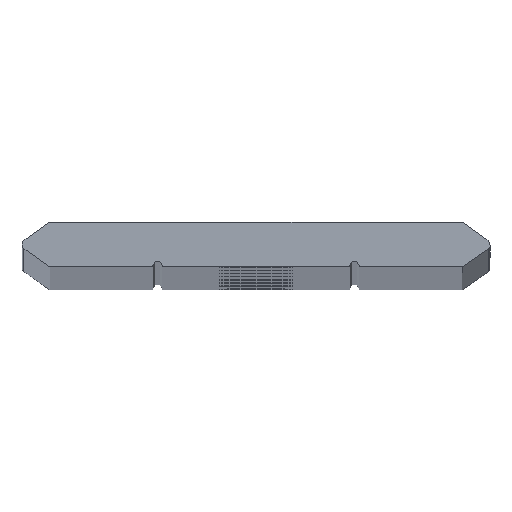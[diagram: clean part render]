
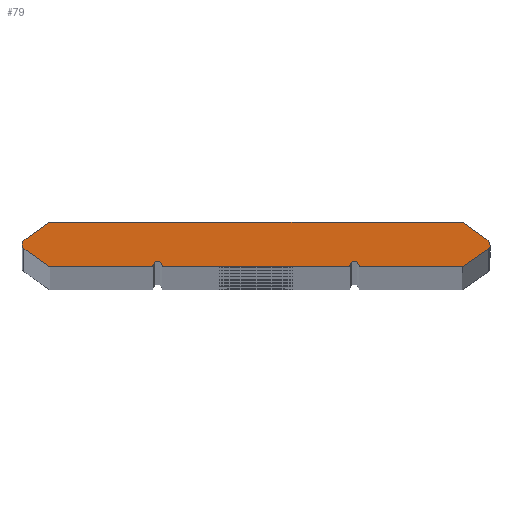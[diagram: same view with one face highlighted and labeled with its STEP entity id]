
A CAD part, top view. The second image highlights one B-rep face of the part: STEP entity #79.
In plain terms, the highlighted planar face has unit normal (0, 0, 1).
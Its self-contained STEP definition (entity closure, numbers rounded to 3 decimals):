
#79=ADVANCED_FACE('',(#166),#167,.T.);
#166=FACE_OUTER_BOUND('',#378,.T.);
#167=PLANE('',#379);
#378=EDGE_LOOP('',(#622,#623,#624,#625,#626,#627,#628,#629,#630,#631,#632,#633,#634,#635,#636,#637));
#379=AXIS2_PLACEMENT_3D('',#638,#639,#640);
#622=ORIENTED_EDGE('',*,*,#1029,.T.);
#623=ORIENTED_EDGE('',*,*,#1009,.T.);
#624=ORIENTED_EDGE('',*,*,#1030,.T.);
#625=ORIENTED_EDGE('',*,*,#1031,.T.);
#626=ORIENTED_EDGE('',*,*,#1032,.T.);
#627=ORIENTED_EDGE('',*,*,#1033,.T.);
#628=ORIENTED_EDGE('',*,*,#1034,.T.);
#629=ORIENTED_EDGE('',*,*,#1035,.T.);
#630=ORIENTED_EDGE('',*,*,#1036,.T.);
#631=ORIENTED_EDGE('',*,*,#1037,.T.);
#632=ORIENTED_EDGE('',*,*,#1038,.T.);
#633=ORIENTED_EDGE('',*,*,#1039,.T.);
#634=ORIENTED_EDGE('',*,*,#1040,.T.);
#635=ORIENTED_EDGE('',*,*,#1007,.T.);
#636=ORIENTED_EDGE('',*,*,#1041,.T.);
#637=ORIENTED_EDGE('',*,*,#1015,.T.);
#638=CARTESIAN_POINT('',(-24.918,0.,0.));
#639=DIRECTION('',(0.,0.0,1.0));
#640=DIRECTION('',(0.,1.0,0.));
#1007=EDGE_CURVE('',#1133,#1137,#1139,.T.);
#1009=EDGE_CURVE('',#1143,#1140,#1144,.T.);
#1015=EDGE_CURVE('',#1149,#1153,#1155,.T.);
#1029=EDGE_CURVE('',#1153,#1143,#1179,.T.);
#1030=EDGE_CURVE('',#1140,#1180,#1181,.T.);
#1031=EDGE_CURVE('',#1180,#1182,#1183,.T.);
#1032=EDGE_CURVE('',#1182,#1184,#1185,.T.);
#1033=EDGE_CURVE('',#1184,#1186,#1187,.T.);
#1034=EDGE_CURVE('',#1186,#1188,#1189,.T.);
#1035=EDGE_CURVE('',#1188,#1190,#1191,.T.);
#1036=EDGE_CURVE('',#1190,#1192,#1193,.T.);
#1037=EDGE_CURVE('',#1192,#1194,#1195,.T.);
#1038=EDGE_CURVE('',#1194,#1196,#1197,.T.);
#1039=EDGE_CURVE('',#1196,#1198,#1199,.T.);
#1040=EDGE_CURVE('',#1198,#1133,#1200,.T.);
#1041=EDGE_CURVE('',#1137,#1149,#1201,.T.);
#1133=VERTEX_POINT('',#1341);
#1137=VERTEX_POINT('',#1347);
#1139=LINE('',#1350,#1351);
#1140=VERTEX_POINT('',#1352);
#1143=VERTEX_POINT('',#1356);
#1144=LINE('',#1357,#1358);
#1149=VERTEX_POINT('',#1365);
#1153=VERTEX_POINT('',#1370);
#1155=CIRCLE('',#1373,0.551);
#1179=LINE('',#1407,#1408);
#1180=VERTEX_POINT('',#1409);
#1181=LINE('',#1410,#1411);
#1182=VERTEX_POINT('',#1412);
#1183=CIRCLE('',#1413,0.5);
#1184=VERTEX_POINT('',#1414);
#1185=LINE('',#1415,#1416);
#1186=VERTEX_POINT('',#1417);
#1187=LINE('',#1418,#1419);
#1188=VERTEX_POINT('',#1420);
#1189=LINE('',#1421,#1422);
#1190=VERTEX_POINT('',#1423);
#1191=CIRCLE('',#1424,0.5);
#1192=VERTEX_POINT('',#1425);
#1193=LINE('',#1426,#1427);
#1194=VERTEX_POINT('',#1428);
#1195=LINE('',#1429,#1430);
#1196=VERTEX_POINT('',#1431);
#1197=LINE('',#1432,#1433);
#1198=VERTEX_POINT('',#1434);
#1199=CIRCLE('',#1435,0.552);
#1200=LINE('',#1436,#1437);
#1201=LINE('',#1438,#1439);
#1341=CARTESIAN_POINT('',(21.997,2.39,0.));
#1347=CARTESIAN_POINT('',(-21.997,2.39,0.));
#1350=CARTESIAN_POINT('',(-24.918,2.39,0.));
#1351=VECTOR('',#1607,1.0);
#1352=CARTESIAN_POINT('',(-11.,-2.39,0.));
#1356=CARTESIAN_POINT('',(-21.997,-2.39,0.));
#1357=CARTESIAN_POINT('',(-24.918,-2.39,0.));
#1358=VECTOR('',#1609,1.0);
#1365=CARTESIAN_POINT('',(-24.765,0.452,0.));
#1370=CARTESIAN_POINT('',(-24.765,-0.452,0.));
#1373=AXIS2_PLACEMENT_3D('',#1617,#1618,#1619);
#1407=CARTESIAN_POINT('',(-25.08,-0.231,0.));
#1408=VECTOR('',#1639,1.0);
#1409=CARTESIAN_POINT('',(-11.,-2.265,0.));
#1410=CARTESIAN_POINT('',(-11.,-2.465,0.));
#1411=VECTOR('',#1640,1.0);
#1412=CARTESIAN_POINT('',(-10.,-2.265,0.));
#1413=AXIS2_PLACEMENT_3D('',#1641,#1642,#1643);
#1414=CARTESIAN_POINT('',(-10.,-2.39,0.));
#1415=CARTESIAN_POINT('',(-10.,-2.265,0.));
#1416=VECTOR('',#1644,1.0);
#1417=CARTESIAN_POINT('',(10.0,-2.39,0.));
#1418=CARTESIAN_POINT('',(-24.918,-2.39,0.));
#1419=VECTOR('',#1645,1.0);
#1420=CARTESIAN_POINT('',(10.0,-2.265,0.));
#1421=CARTESIAN_POINT('',(10.0,-2.465,0.));
#1422=VECTOR('',#1646,1.0);
#1423=CARTESIAN_POINT('',(11.,-2.265,0.));
#1424=AXIS2_PLACEMENT_3D('',#1647,#1648,#1649);
#1425=CARTESIAN_POINT('',(11.0,-2.39,0.));
#1426=CARTESIAN_POINT('',(11.0,-2.265,0.));
#1427=VECTOR('',#1650,1.0);
#1428=CARTESIAN_POINT('',(21.997,-2.39,0.));
#1429=CARTESIAN_POINT('',(-24.918,-2.39,0.));
#1430=VECTOR('',#1651,1.0);
#1431=CARTESIAN_POINT('',(24.78,-0.441,0.));
#1432=CARTESIAN_POINT('',(-8.361,-23.647,0.));
#1433=VECTOR('',#1652,1.0);
#1434=CARTESIAN_POINT('',(24.765,0.452,0.));
#1435=AXIS2_PLACEMENT_3D('',#1653,#1654,#1655);
#1436=CARTESIAN_POINT('',(-8.361,23.647,0.));
#1437=VECTOR('',#1656,1.0);
#1438=CARTESIAN_POINT('',(-25.08,0.231,0.));
#1439=VECTOR('',#1657,1.0);
#1607=DIRECTION('',(-1.0,0.,0.));
#1609=DIRECTION('',(1.0,0.,0.));
#1617=CARTESIAN_POINT('',(-24.449,0.,0.));
#1618=DIRECTION('',(0.,0.0,1.0));
#1619=DIRECTION('',(0.,1.0,0.));
#1639=DIRECTION('',(0.819,-0.574,0.));
#1640=DIRECTION('',(0.,1.0,0.));
#1641=CARTESIAN_POINT('',(-10.5,-2.265,0.));
#1642=DIRECTION('',(0.,0.,-1.0));
#1643=DIRECTION('',(0.,1.0,0.));
#1644=DIRECTION('',(0.,-1.0,0.));
#1645=DIRECTION('',(1.0,0.,0.));
#1646=DIRECTION('',(0.,1.0,0.));
#1647=CARTESIAN_POINT('',(10.5,-2.265,0.));
#1648=DIRECTION('',(0.,0.,-1.0));
#1649=DIRECTION('',(0.,1.0,0.));
#1650=DIRECTION('',(0.,-1.0,0.));
#1651=DIRECTION('',(1.0,0.,0.));
#1652=DIRECTION('',(0.819,0.574,0.));
#1653=CARTESIAN_POINT('',(24.448,0.,0.));
#1654=DIRECTION('',(0.,0.0,1.0));
#1655=DIRECTION('',(0.,1.0,0.));
#1656=DIRECTION('',(-0.819,0.574,0.));
#1657=DIRECTION('',(-0.819,-0.574,0.));
